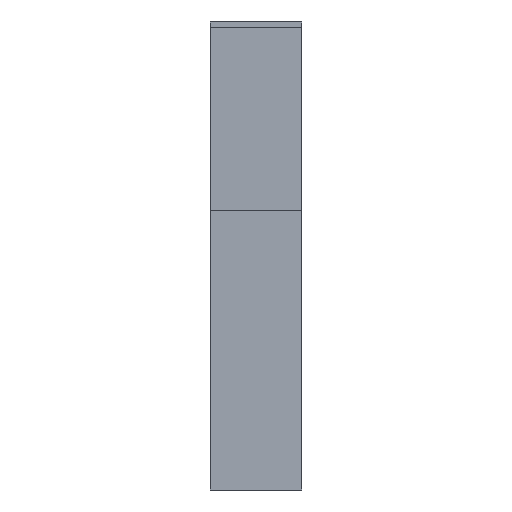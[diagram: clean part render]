
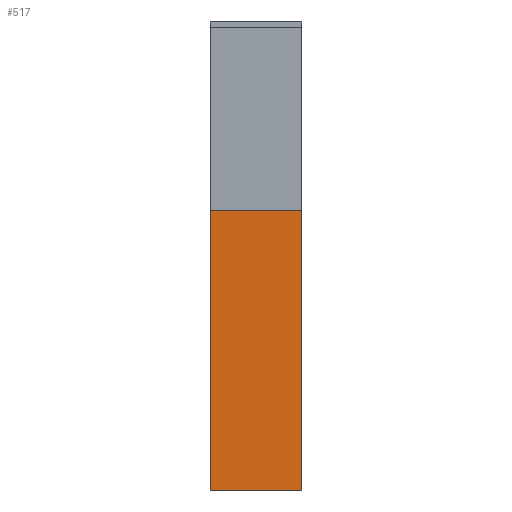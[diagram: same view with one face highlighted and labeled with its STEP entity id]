
A CAD part, left-side view. The second image highlights one B-rep face of the part: STEP entity #517.
In plain terms, the highlighted planar face has unit normal (-1, 0, 0).
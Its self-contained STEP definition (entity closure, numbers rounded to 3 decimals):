
#13 = EDGE_CURVE ( 'NONE', #889, #1013, #316, .T. ) ;
#68 = VECTOR ( 'NONE', #162, 1000. ) ;
#81 = AXIS2_PLACEMENT_3D ( 'NONE', #287, #920, #603 ) ;
#162 = DIRECTION ( 'NONE',  ( 0., 0., 1. ) ) ;
#189 = FACE_OUTER_BOUND ( 'NONE', #1097, .T. ) ;
#217 = CARTESIAN_POINT ( 'NONE',  ( -19., 300., -600. ) ) ;
#287 = CARTESIAN_POINT ( 'NONE',  ( -19., 300., -600. ) ) ;
#289 = ORIENTED_EDGE ( 'NONE', *, *, #1160, .T. ) ;
#292 = EDGE_CURVE ( 'NONE', #889, #799, #469, .T. ) ;
#304 = VERTEX_POINT ( 'NONE', #1086 ) ;
#316 = LINE ( 'NONE', #217, #1096 ) ;
#336 = ORIENTED_EDGE ( 'NONE', *, *, #13, .F. ) ;
#462 = CARTESIAN_POINT ( 'NONE',  ( -19., 300., -600. ) ) ;
#469 = LINE ( 'NONE', #1205, #1331 ) ;
#517 = ADVANCED_FACE ( 'NONE', ( #189 ), #594, .F. ) ;
#586 = DIRECTION ( 'NONE',  ( 0., -1., 0. ) ) ;
#594 = PLANE ( 'NONE',  #81 ) ;
#603 = DIRECTION ( 'NONE',  ( 0., 0., -1. ) ) ;
#607 = LINE ( 'NONE', #678, #1087 ) ;
#671 = ORIENTED_EDGE ( 'NONE', *, *, #1082, .F. ) ;
#678 = CARTESIAN_POINT ( 'NONE',  ( -19., 300., -600. ) ) ;
#685 = DIRECTION ( 'NONE',  ( 0., -1., 0. ) ) ;
#746 = CARTESIAN_POINT ( 'NONE',  ( -19., 0., -1519. ) ) ;
#799 = VERTEX_POINT ( 'NONE', #746 ) ;
#889 = VERTEX_POINT ( 'NONE', #1148 ) ;
#920 = DIRECTION ( 'NONE',  ( 1., 0., 0. ) ) ;
#1001 = ORIENTED_EDGE ( 'NONE', *, *, #292, .T. ) ;
#1013 = VERTEX_POINT ( 'NONE', #462 ) ;
#1082 = EDGE_CURVE ( 'NONE', #1013, #304, #607, .T. ) ;
#1086 = CARTESIAN_POINT ( 'NONE',  ( -19., 0., -600. ) ) ;
#1087 = VECTOR ( 'NONE', #586, 1000. ) ;
#1096 = VECTOR ( 'NONE', #1221, 1000. ) ;
#1097 = EDGE_LOOP ( 'NONE', ( #289, #671, #336, #1001 ) ) ;
#1102 = LINE ( 'NONE', #1324, #68 ) ;
#1148 = CARTESIAN_POINT ( 'NONE',  ( -19., 300., -1519. ) ) ;
#1160 = EDGE_CURVE ( 'NONE', #799, #304, #1102, .T. ) ;
#1205 = CARTESIAN_POINT ( 'NONE',  ( -19., 300., -1519. ) ) ;
#1221 = DIRECTION ( 'NONE',  ( 0., 0., 1. ) ) ;
#1324 = CARTESIAN_POINT ( 'NONE',  ( -19., 0., -600. ) ) ;
#1331 = VECTOR ( 'NONE', #685, 1000. ) ;
